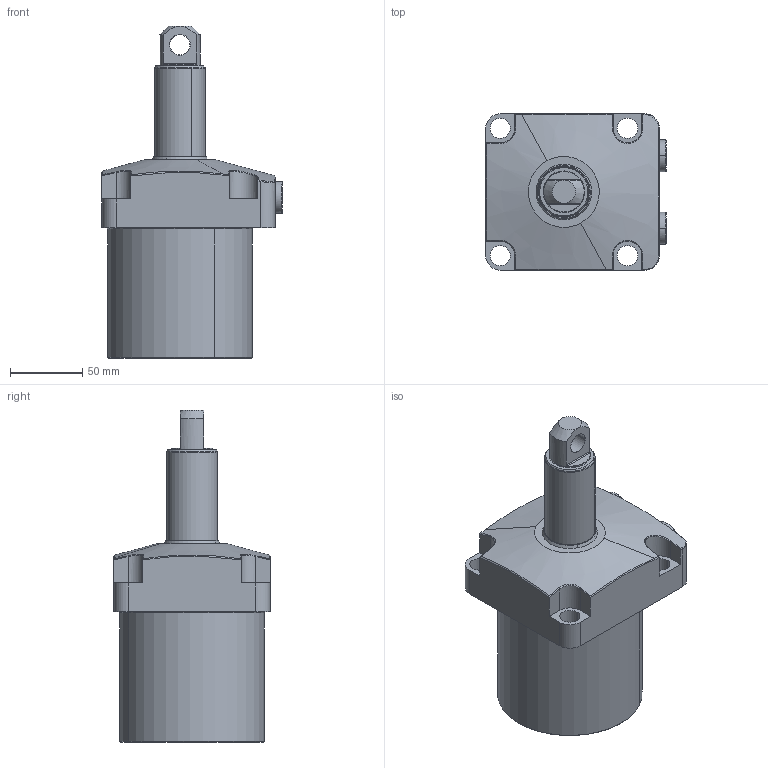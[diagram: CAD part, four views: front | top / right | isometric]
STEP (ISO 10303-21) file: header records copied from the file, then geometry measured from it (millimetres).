
FILE_DESCRIPTION(('CATIA V5 STEP Exchange'),'2;1');
FILE_NAME('C:\Users\kong\Desktop\GCD-25-60X.stp','2014-11-04T06:48:39+00:00',('none'),('none'),'CATIA Version 5 Release 17 (IN-10)','CATIA V5 STEP AP203','none');
FILE_SCHEMA(('CONFIG_CONTROL_DESIGN'));
Length unit declared in the file: millimetre
Products named in the file (1): Product2
Assembly tree (4 placements, depth 2):
  Product2
    #56
    #5374
    #6212  x2
Bounding box: 124.81 x 108 x 229.5 mm (x, y, z)
Volume: 1219547.4 mm3; surface area: 97423.8 mm2
Topology: 4 solids, 4 shells, 169 faces, 416 edges, 270 vertices
Faces by surface type: plane 55, cylinder 52, cone 30, bspline 22, torus 10
Entity records: 6872 total; most frequent: CARTESIAN_POINT 3649, ORIENTED_EDGE 740, DIRECTION 449, EDGE_CURVE 370, VERTEX_POINT 242, AXIS2_PLACEMENT_3D 223, EDGE_LOOP 170, ADVANCED_FACE 147
